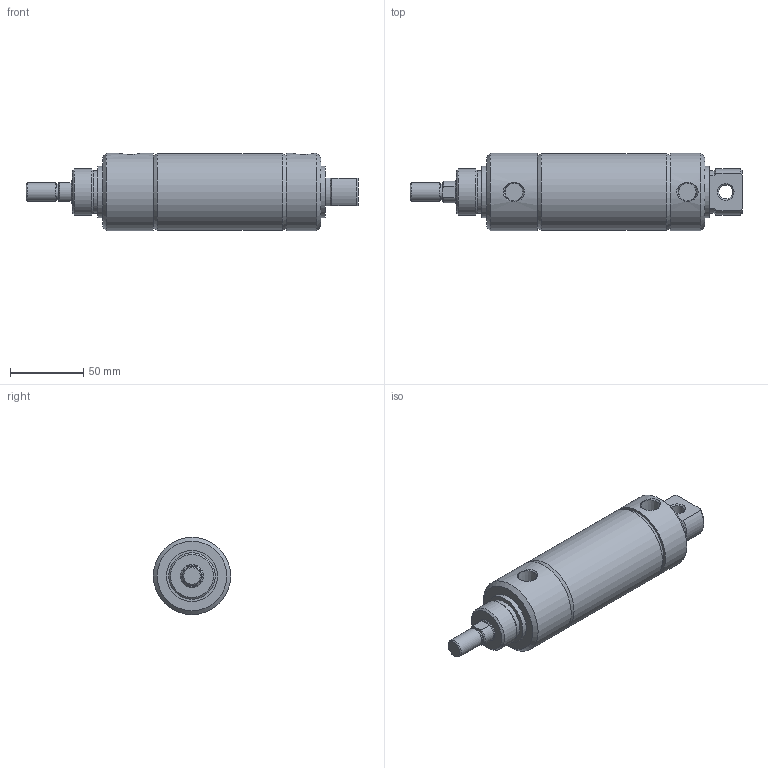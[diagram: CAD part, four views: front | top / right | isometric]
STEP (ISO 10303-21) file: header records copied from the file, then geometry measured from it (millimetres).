
FILE_DESCRIPTION( ( 'STEP AP214' ), '1' );
FILE_NAME( 'p:/temp/worker_511/temp/exporttempdir_6120_147_gfaxY/format_0/2000D02-02A-03.stp', '2020-05-07T19:18:15', ( 'License CC BY-ND 4.0' ), ( 'CADENAS' ), ' ', 'PARTsolutions', ' ' );
FILE_SCHEMA( ( 'AUTOMOTIVE_DESIGN { 1 0 10303 214 1 1 1 1 }' ) );
Length unit declared in the file: inch
Products named in the file (3): 2000D02-02A-03; _2000D02-02A-0300A00A0b; _2000D02-02A-0300A00A0r
Assembly tree (2 placements, depth 2):
  2000D02-02A-03
    _2000D02-02A-0300A00A0b
    _2000D02-02A-0300A00A0r
Bounding box: 227.03 x 52.78 x 52.78 mm (x, y, z)
Volume: 260685.6 mm3; surface area: 71879.3 mm2
Topology: 2 solids, 2 shells, 65 faces, 127 edges, 79 vertices
Faces by surface type: plane 23, cone 21, cylinder 21
Full cylindrical faces by diameter (mm): 9.525 x1, 11.189 x1, 12.7 x1, 15.875 x3, 29.23 x1, 31.75 x1, 34.925 x2, 50.8 x2, 52.578 x1, 52.781 x2
Entity records: 2254 total; most frequent: CARTESIAN_POINT 454, DIRECTION 276, ORIENTED_EDGE 188, AXIS2_PLACEMENT_3D 128, EDGE_LOOP 110, EDGE_CURVE 94, FACE_OUTER_BOUND 80, VERTEX_POINT 76
